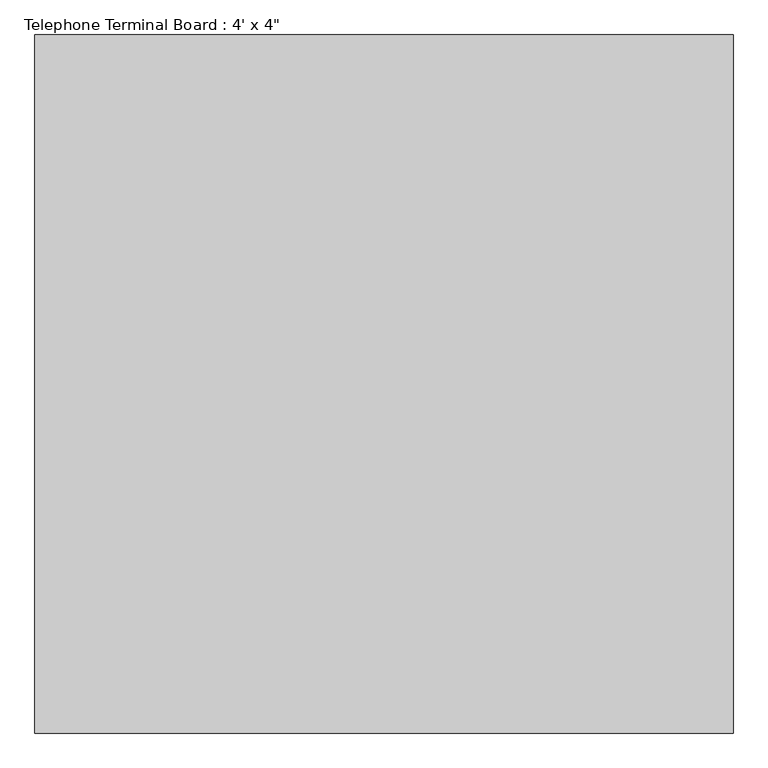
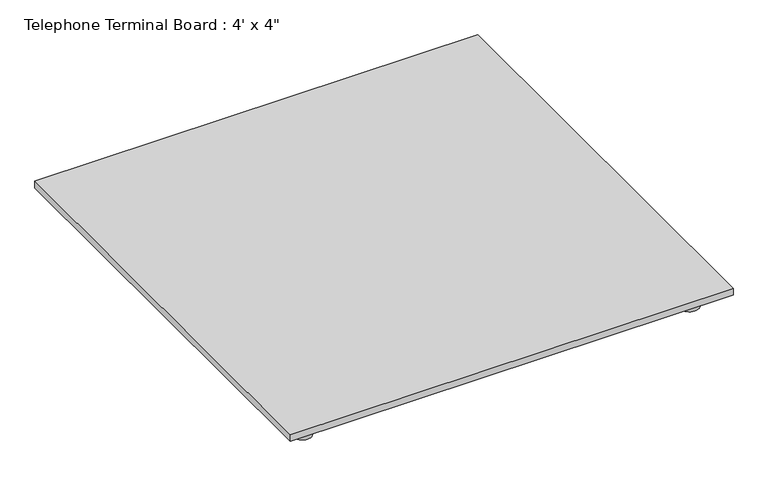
"""IFC4 building model written with IfcOpenShell, lengths in millimetres: proxy geometry."""

from ifc_helpers import new_model, si_unit, point, frame, frame_2d, origin, origin_with_axes, place, context, project, spatial, polyline, circle_curve, trimmed, segment, composite_curve, outline, extrude, source, transform, mapped, element, save


def proxy_549544a4(model_context):
    return source(origin(), model_context, "Body", "SweptSolid", [
        extrude(outline(composite_curve([segment(trimmed(circle_curve(frame_2d((533.4, -533.4)), 25.4), [point((558.8, -533.4))], [point((508.0, -533.4))], False, "CARTESIAN"), True, "CONTINUOUS"), segment(trimmed(circle_curve(frame_2d((533.4, -533.4)), 25.4), [point((508.0, -533.4))], [point((558.8, -533.4))], False, "CARTESIAN"), True, "CONTINUOUS")], self_intersect=False)), origin_with_axes(), (0.0, 0.0, 1.0), 50.8),
        extrude(outline(composite_curve([segment(trimmed(circle_curve(frame_2d((533.4, 533.4)), 25.4), [point((558.8, 533.4))], [point((508.0, 533.4))], False, "CARTESIAN"), True, "CONTINUOUS"), segment(trimmed(circle_curve(frame_2d((533.4, 533.4)), 25.4), [point((508.0, 533.4))], [point((558.8, 533.4))], False, "CARTESIAN"), True, "CONTINUOUS")], self_intersect=False)), origin_with_axes(), (0.0, 0.0, 1.0), 50.8),
        extrude(outline(composite_curve([segment(trimmed(circle_curve(frame_2d((-533.4, -533.4)), 25.4), [point((-558.8, -533.4))], [point((-508.0, -533.4))], False, "CARTESIAN"), True, "CONTINUOUS"), segment(trimmed(circle_curve(frame_2d((-533.4, -533.4)), 25.4), [point((-508.0, -533.4))], [point((-558.8, -533.4))], False, "CARTESIAN"), True, "CONTINUOUS")], self_intersect=False)), origin_with_axes(), (0.0, 0.0, 1.0), 50.8),
        extrude(outline(composite_curve([segment(trimmed(circle_curve(frame_2d((-533.4, 533.4)), 25.4), [point((-558.8, 533.4))], [point((-508.0, 533.4))], False, "CARTESIAN"), True, "CONTINUOUS"), segment(trimmed(circle_curve(frame_2d((-533.4, 533.4)), 25.4), [point((-508.0, 533.4))], [point((-558.8, 533.4))], False, "CARTESIAN"), True, "CONTINUOUS")], self_intersect=False)), origin_with_axes(), (0.0, 0.0, 1.0), 50.8),
        extrude(outline(polyline([(609.6, 609.6), (609.6, -609.6), (-609.6, -609.6), (-609.6, 609.6), (609.6, 609.6)])), frame((0.0, 0.0, 50.8), z_axis=(0.0, 0.0, 1.0), x_axis=(1.0, 0.0, 0.0)), (0.0, 0.0, 1.0), 19.05),
    ])


if __name__ == "__main__":
    model = new_model("IFC4")
    model_context = context("Model", 3, world=origin())
    ifc_project = project(units=[si_unit("LENGTHUNIT", "METRE", prefix="MILLI")], contexts=[model_context])
    site = spatial("IfcSite", under=ifc_project)
    building = spatial("IfcBuilding", under=site)
    placement = place(None, origin())
    proxy_shape = proxy_549544a4(model_context)
    element("IfcBuildingElementProxy", 1, Name="Telephone Terminal Board : 4' x 4\"", ObjectType="Telephone Terminal Board : 4' x 4\"", at=placement, inside=building, context=model_context, shape_type="MappedRepresentation", body=[
        mapped(proxy_shape, transform((0.0, 0.0, 0.0), x_axis=(1.0, 0.0, 0.0), y_axis=(0.0, 1.0, 0.0), z_axis=(0.0, 0.0, 1.0))),
    ])
    save(model, "model.ifc")
